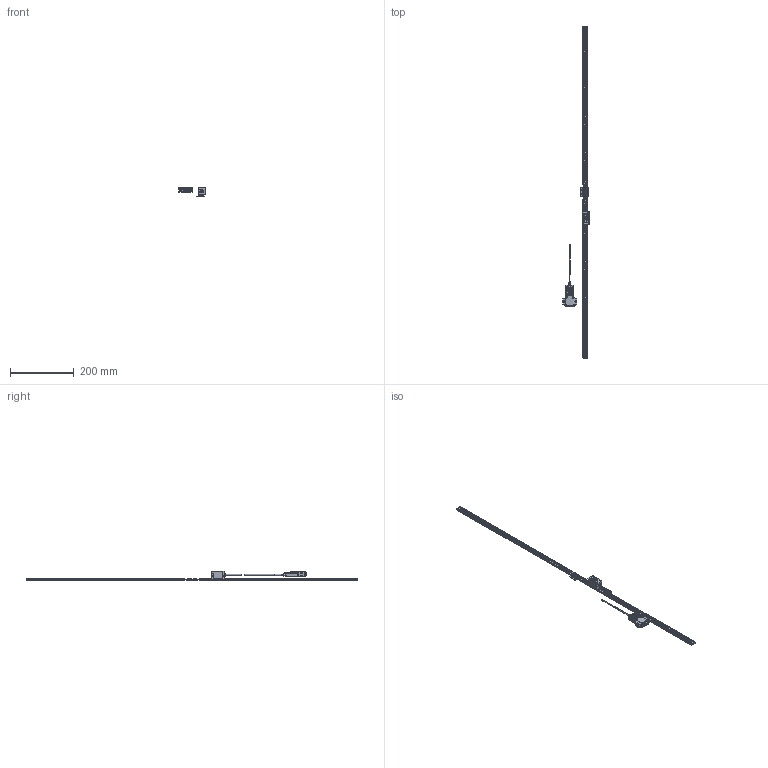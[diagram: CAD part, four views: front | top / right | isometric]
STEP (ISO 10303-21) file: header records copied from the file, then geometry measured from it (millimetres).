
FILE_DESCRIPTION(('Creo Elements/Direct Modeling STEP Export'),'2;1');
FILE_NAME('ST1300-1000F_G.stp','2022-08-16T10:25:43',(''),(''),'Creo Elements/Direct Modeling STEP processor for AP214 (Solid Model)','Creo Elements/Direct Modeling 18.1I 13-Aug-2016 (C) Parametric Technology GmbH','');
FILE_SCHEMA(('AUTOMOTIVE_DESIGN { 1 0 10303 214 1 1 1 1 }'));
Products named in the file (4): Connector; Scale_1000; Detector_Head; ST1300-1000F_G
Assembly tree (3 placements, depth 2):
  ST1300-1000F_G
    Detector_Head
    Scale_1000
    Connector
Bounding box: 83 x 1040 x 30.1 mm (x, y, z)
Volume: 105034.1 mm3; surface area: 65925.3 mm2
Topology: 2 solids, 6 shells, 3505 faces, 9652 edges, 6297 vertices
Faces by surface type: plane 1652, cylinder 1539, extrusion 174, cone 87, torus 26, bspline 23, revolution 4
Entity records: 116789 total; most frequent: CARTESIAN_POINT 26911, ORIENTED_EDGE 19288, DIRECTION 18133, EDGE_CURVE 9640, VERTEX_POINT 6297, AXIS2_PLACEMENT_3D 6113, VECTOR 5901, LINE 5759
